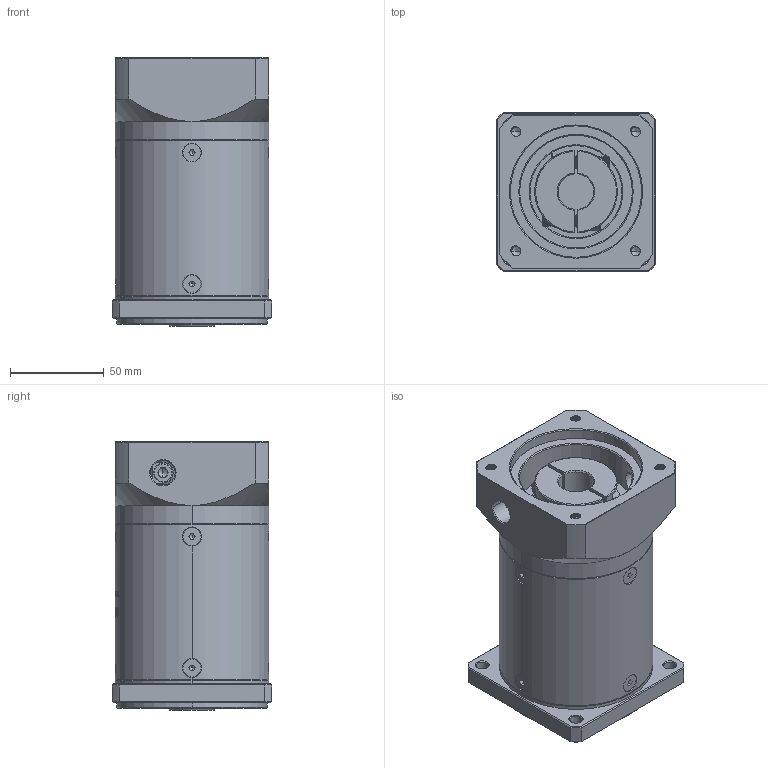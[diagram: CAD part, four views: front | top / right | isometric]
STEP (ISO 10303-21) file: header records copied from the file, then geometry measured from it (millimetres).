
FILE_DESCRIPTION (( 'STEP AP214' ), '1' );
FILE_NAME ('ZF80-K15-L3-19-70-90-M6.step', '2022-09-16T05:26:06', ( '' ), ( 'Microsoft' ), 'SwSTEP 2.0', 'SolidWorks 2016', '' );
FILE_SCHEMA (( 'AUTOMOTIVE_DESIGN' ));
Length unit declared in the file: millimetre
Products named in the file (1): ZF80-K15-L3-19-70-90-M6
Bounding box: 85 x 85 x 143 mm (x, y, z)
Volume: 721083.1 mm3; surface area: 94866.2 mm2
Topology: 13 solids, 13 shells, 1923 faces, 4984 edges, 3153 vertices
Faces by surface type: plane 884, cylinder 381, cone 331, bspline 310, torus 17
Entity records: 101414 total; most frequent: CARTESIAN_POINT 36710, ORIENTED_EDGE 9912, DIRECTION 7847, EDGE_CURVE 4956, VERTEX_POINT 3153, LINE 2709, VECTOR 2709, AXIS2_PLACEMENT_3D 2569
